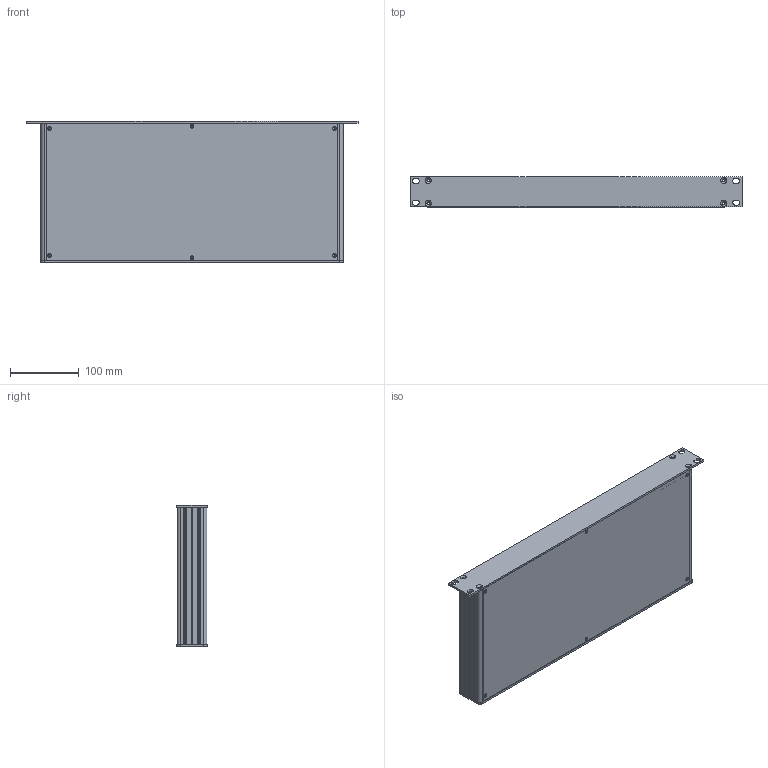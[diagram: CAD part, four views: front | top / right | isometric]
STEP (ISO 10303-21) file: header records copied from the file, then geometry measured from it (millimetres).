
FILE_DESCRIPTION (( 'STEP AP203' ), '1' );
FILE_NAME ('RM-110-20.STEP', '2018-11-29T07:26:38', ( '' ), ( '' ), 'SwSTEP 2.0', 'SolidWorks 2018', '' );
FILE_SCHEMA (( 'CONFIG_CONTROL_DESIGN' ));
Length unit declared in the file: millimetre
Products named in the file (6): RM-110-20; Panel_14 cm; Panel_1; 1U_arka_panel; AP-210_14 cm; 1U_on_panel
Assembly tree (6 placements, depth 2):
  RM-110-20
    1U_on_panel
    AP-210_14 cm  x2
    1U_arka_panel
    Panel_14 cm
    Panel_1
Bounding box: 482.6 x 43.65 x 206 mm (x, y, z)
Volume: 482426.4 mm3; surface area: 564810.7 mm2
Topology: 6 solids, 6 shells, 1142 faces, 3366 edges, 2236 vertices
Faces by surface type: plane 706, cylinder 396, cone 40
Entity records: 29793 total; most frequent: CARTESIAN_POINT 5105, ORIENTED_EDGE 5046, DIRECTION 5019, EDGE_CURVE 2523, VECTOR 1747, LINE 1747, VERTEX_POINT 1674, AXIS2_PLACEMENT_3D 1636
